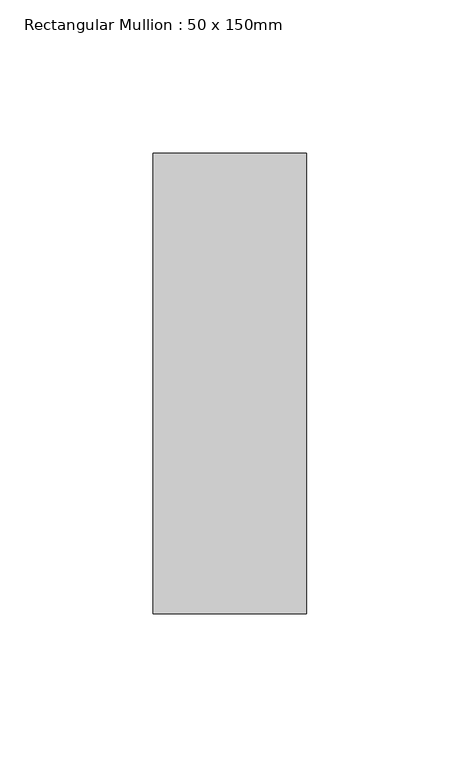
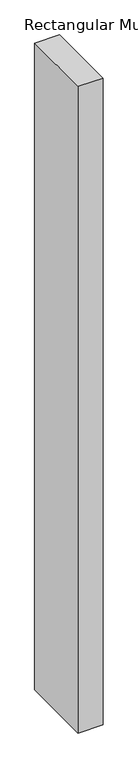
"""IFC4 building model written with IfcOpenShell, lengths in millimetres: member geometry, Rectangular Mullion : 50 x 150mm."""

from ifc_helpers import new_model, si_unit, frame, origin, place, context, project, spatial, polyline, outline, extrude, source, transform, mapped, element, save


def rectangular_mullion_50_x_150mm_5a5a0db4(model_context):
    return source(origin(), model_context, "Body", "SweptSolid", [
        extrude(outline(polyline([(0.0, 75.0), (0.0, -75.0), (-50.0, -75.0), (-50.0, 75.0), (0.0, 75.0)])), frame((0.0, 0.0, -1364.7256931), z_axis=(0.0, 0.0, 1.0), x_axis=(1.0, 0.0, 0.0)), (0.0, 0.0, 1.0), 1364.7256931),
    ])


if __name__ == "__main__":
    model = new_model("IFC4")
    model_context = context("Model", 3, world=origin())
    ifc_project = project(units=[si_unit("LENGTHUNIT", "METRE", prefix="MILLI")], contexts=[model_context])
    site = spatial("IfcSite", under=ifc_project)
    building = spatial("IfcBuilding", under=site)
    placement = place(None, origin())
    rectangular_mullion_50_x_150mm_shape = rectangular_mullion_50_x_150mm_5a5a0db4(model_context)
    element("IfcMember", 1, ObjectType="Rectangular Mullion : 50 x 150mm", at=placement, inside=building, context=model_context, shape_type="MappedRepresentation", body=[
        mapped(rectangular_mullion_50_x_150mm_shape, transform((0.0, 0.0, 0.0), x_axis=(1.0, 0.0, 0.0), y_axis=(0.0, 1.0, 0.0), z_axis=(0.0, 0.0, 1.0))),
    ])
    save(model, "model.ifc")
